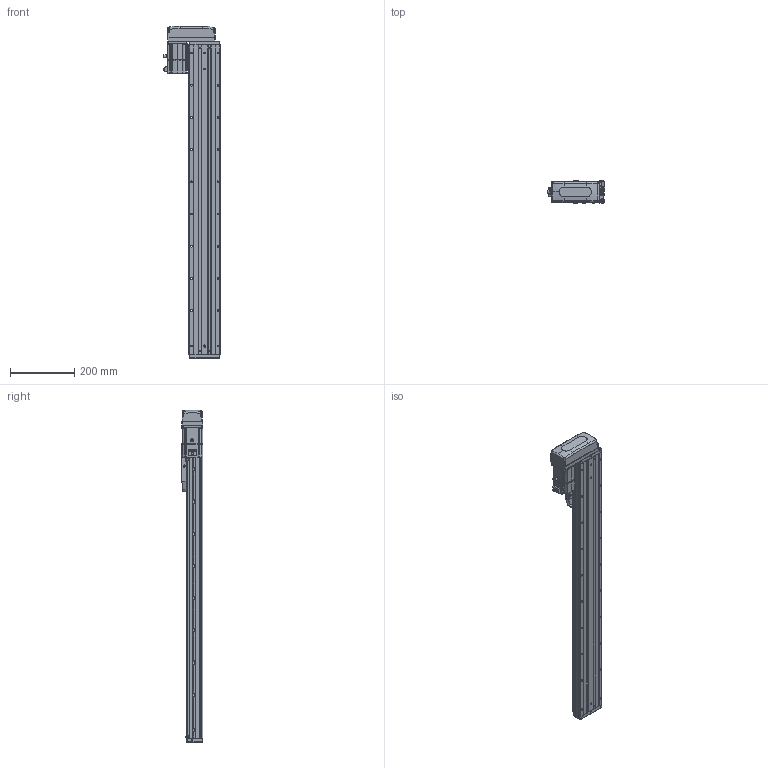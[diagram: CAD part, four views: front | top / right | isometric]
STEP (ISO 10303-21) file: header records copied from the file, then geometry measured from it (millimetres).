
FILE_DESCRIPTION (( 'STEP AP203' ), '1' );
FILE_NAME ('CTHA100-750-BL-M20-C4L.step', '2022-07-06T09:09:54', ( '微软用户' ), ( '微软中国' ), 'SwSTEP 2.0', 'SolidWorks 2020', '' );
FILE_SCHEMA (( 'CONFIG_CONTROL_DESIGN' ));
Length unit declared in the file: millimetre
Products named in the file (19): CTHA86-015-1_CTHA86-015-2; GB¨uT 70.2-M3¡Á5_M3¡Á6; CTHA60-016; CTHA86-033; EE_SX911P_R; _X2_4E0983F1_X0_200W_1; CTHA100-750-BL-M20-C4L; CTHA60-017; CTHA100-002; CTHA60-021; CTHA100-031; KTHA100-001_960; GBT77-2000 M3×3; CTHA86-030; KTHA100-004; GBT 70.1-M3℅6; GBT 70.3-M3℅6; KTHA100-005; GBT70.1 M5℅16
Assembly tree (64 placements, depth 2):
  CTHA100-750-BL-M20-C4L
    KTHA100-001_960
    KTHA100-004
    KTHA100-005
    GB¨uT 70.2-M3¡Á5_M3¡Á6  x10
    EE_SX911P_R  x3
    CTHA60-017  x3
    CTHA60-021  x2
    GBT77-2000 M3×3  x6
    GBT 70.1-M3℅6  x10
    GBT70.1 M5℅16  x14
    CTHA60-016  x2
    _X2_4E0983F1_X0_200W_1
    CTHA100-002
    CTHA100-031
    CTHA86-030  x2
    GBT 70.3-M3℅6  x4
    CTHA86-015-1_CTHA86-015-2
    CTHA86-033
Bounding box: 178.52 x 68 x 1031 mm (x, y, z)
Volume: 4248510.8 mm3; surface area: 711663.7 mm2
Topology: 66 solids, 66 shells, 2709 faces, 6527 edges, 4048 vertices
Faces by surface type: plane 1416, cylinder 713, cone 357, torus 124, bspline 75, sphere 24
Entity records: 47284 total; most frequent: CARTESIAN_POINT 9259, DIRECTION 7314, ORIENTED_EDGE 7170, EDGE_CURVE 3585, AXIS2_PLACEMENT_3D 2475, LINE 2364, VECTOR 2364, VERTEX_POINT 2268
